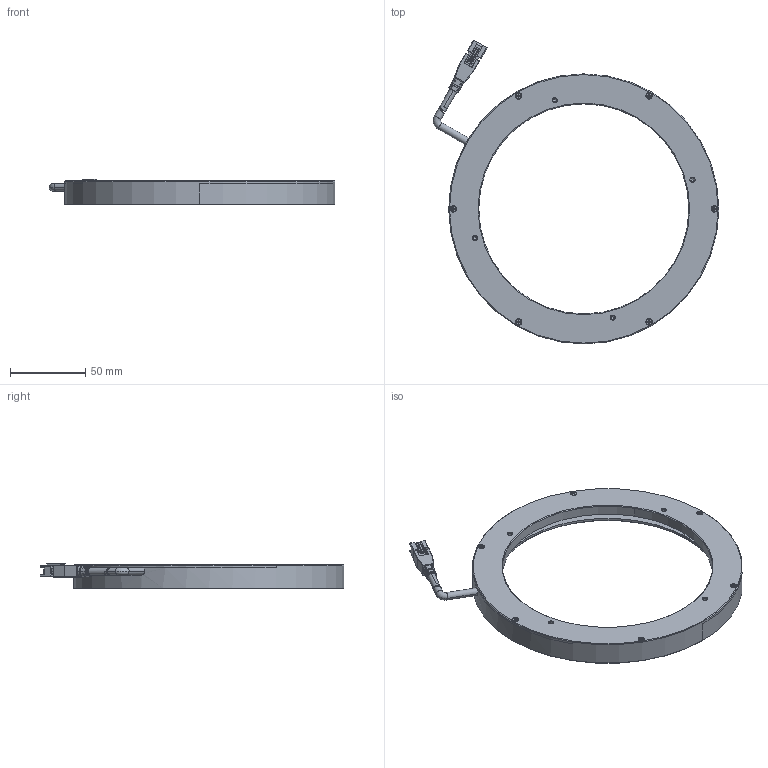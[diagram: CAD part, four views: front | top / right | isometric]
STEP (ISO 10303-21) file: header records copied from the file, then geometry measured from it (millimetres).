
FILE_DESCRIPTION((''),'2;1');
FILE_NAME('MV-LRDS-180-00-X','2023-09-15T16:41:23',('qiaoxuan5'),(''),'CREO PARAMETRIC BY PTC INC, 2020044','CREO PARAMETRIC BY PTC INC, 2020044','');
FILE_SCHEMA(('CONFIG_CONTROL_DESIGN'));
Length unit declared in the file: millimetre
Products named in the file (1): MV-LRDS-180-00-X
Bounding box: 190.41 x 202.53 x 17.2 mm (x, y, z)
Volume: 125858.2 mm3; surface area: 48555.9 mm2
Topology: 2 solids, 16 shells, 572 faces, 1382 edges, 833 vertices
Faces by surface type: plane 301, cylinder 156, cone 75, torus 22, sphere 8, bspline 8, extrusion 2
Entity records: 17001 total; most frequent: CARTESIAN_POINT 3672, DIRECTION 2820, ORIENTED_EDGE 2708, EDGE_CURVE 1354, AXIS2_PLACEMENT_3D 992, VECTOR 836, LINE 834, VERTEX_POINT 833
